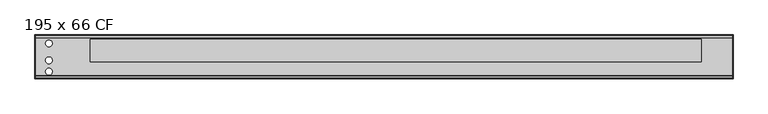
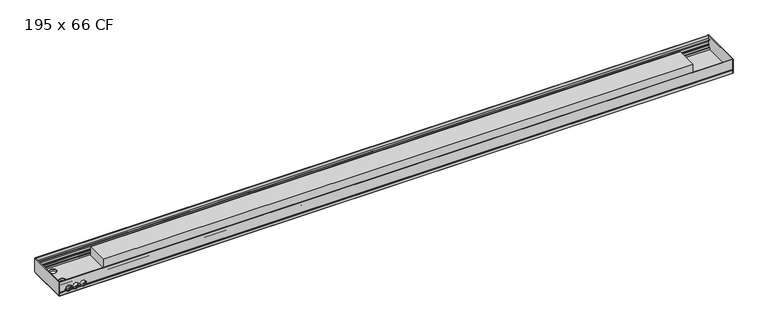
"""IFC4 building model written with IfcOpenShell, lengths in millimetres: proxy geometry, Mohlenhof_Внутрипольный конвектор_QSKM CF : 195 x 66 CF."""

from ifc_helpers import new_model, si_unit, point, frame, frame_2d, origin, place, context, project, spatial, polyline, circle_curve, ellipse_curve, trimmed, segment, composite_curve, outline, extrude, source, transform, mapped, element, save
from ifc_brep_helpers import plane_surface, revolved_surface, advanced_brep


def proxy_195_x_66_cf_4e1b1b7e(model_context):
    return source(origin(), model_context, "Body", "SolidModel", [
        advanced_brep(
        [(1548.0, -295.0, -48.5473602), (1548.0, -293.5, -49.2468216), (1548.0, -292.5, -49.2468216), (1548.0, -292.5, -46.0008038), (1548.0, -290.0, -46.0008038), (1548.0, -290.0, -56.5008038), (1548.0, -292.5, -56.5008038), (1548.0, -292.5, -53.2468216), (1548.0, -293.5, -53.2468216), (1548.0, -295.0, -53.9462831), (1548.0, -295.0, -66.5), (1548.0, -291.0, -66.5), (1548.0, -291.0, -65.2), (1548.0, -293.0, -65.2), (1548.0, -293.0, -62.5), (1548.0, -282.0, -62.5), (1548.0, -282.0, -54.9172677), (1548.0, -283.4172677, -53.5), (1548.0, -287.0, -53.5), (1548.0, -287.0, -45.91), (1548.0, -289.0, -43.91), (1548.0, -289.0, -39.5), (1548.0, -290.0, -39.5), (1548.0, -290.0, -43.5), (1548.0, -292.4956439, -43.5), (1548.0, -292.4956439, -23.0), (1548.0, -290.0, -23.0), (1548.0, -290.0, -27.0), (1548.0, -289.0, -27.0), (1548.0, -289.0, -17.0), (1548.0, -283.3956439, -17.0), (1548.0, -283.3956439, -15.0), (1548.0, -293.4, -15.0), (1548.0, -293.4, 0.0), (1548.0, -295.0, 0.0), (-1548.0, -295.0, -48.5473602), (-1548.0, -295.0, 0.0), (-1548.0, -293.4, 0.0), (-1548.0, -293.4, -15.0), (-1548.0, -283.3956439, -15.0), (-1548.0, -283.3956439, -17.0), (-1548.0, -289.0, -17.0), (-1548.0, -289.0, -27.0), (-1548.0, -290.0, -27.0), (-1548.0, -290.0, -23.0), (-1548.0, -292.4956439, -23.0), (-1548.0, -292.4956439, -43.5), (-1548.0, -290.0, -43.5), (-1548.0, -290.0, -39.5), (-1548.0, -289.0, -39.5), (-1548.0, -289.0, -43.91), (-1548.0, -287.0, -45.91), (-1548.0, -287.0, -53.5), (-1548.0, -283.4172677, -53.5), (-1548.0, -282.0, -54.9172677), (-1548.0, -282.0, -62.5), (-1548.0, -293.0, -62.5), (-1548.0, -293.0, -65.2), (-1548.0, -291.0, -65.2), (-1548.0, -291.0, -66.5), (-1548.0, -295.0, -66.5), (-1548.0, -295.0, -53.9462831), (-1548.0, -293.5, -53.2468216), (-1548.0, -292.5, -53.2468216), (-1548.0, -292.5, -56.5008038), (-1548.0, -290.0, -56.5008038), (-1548.0, -290.0, -46.0008038), (-1548.0, -292.5, -46.0008038), (-1548.0, -292.5, -49.2468216), (-1548.0, -293.5, -49.2468216), (-1428.7585985, -295.0, -48.5473602), (-1429.155283, -293.5, -49.2468216), (-1520.844717, -293.5, -49.2468216), (-1521.2414015, -295.0, -48.5473602), (-1488.2414015, -295.0, -48.5473602), (-1494.7585985, -295.0, -48.5473602), (-1495.155283, -293.5, -49.2468216), (-1487.844717, -293.5, -49.2468216), (-1455.2414015, -295.0, -48.5473602), (-1461.7585985, -295.0, -48.5473602), (-1462.155283, -293.5, -49.2468216), (-1454.844717, -293.5, -49.2468216), (-1429.155283, -292.5, -49.2468216), (-1520.844717, -292.5, -49.2468216), (-1495.155283, -292.5, -49.2468216), (-1487.844717, -292.5, -49.2468216), (-1462.155283, -292.5, -49.2468216), (-1454.844717, -292.5, -49.2468216), (-1427.6911648, -292.5, -46.0008038), (-1522.3088352, -292.5, -46.0008038), (-1493.6911648, -292.5, -46.0008038), (-1489.3088352, -292.5, -46.0008038), (-1460.6911648, -292.5, -46.0008038), (-1456.3088352, -292.5, -46.0008038), (-1427.6911648, -290.0, -46.0008038), (-1522.3088352, -290.0, -46.0008038), (-1493.6911648, -290.0, -46.0008038), (-1489.3088352, -290.0, -46.0008038), (-1460.6911648, -290.0, -46.0008038), (-1456.3088352, -290.0, -46.0008038), (-1517.328032, -292.5, -53.2468216), (-1498.671968, -292.5, -53.2468216), (-1484.328032, -292.5, -53.2468216), (-1465.671968, -292.5, -53.2468216), (-1451.328032, -292.5, -53.2468216), (-1432.671968, -292.5, -53.2468216), (-1432.671968, -293.5, -53.2468216), (-1517.328032, -293.5, -53.2468216), (-1498.671968, -293.5, -53.2468216), (-1484.328032, -293.5, -53.2468216), (-1465.671968, -293.5, -53.2468216), (-1451.328032, -293.5, -53.2468216), (-1433.6280208, -295.0, -53.9462831), (-1516.3719792, -295.0, -53.9462831), (-1499.6280208, -295.0, -53.9462831), (-1483.3719792, -295.0, -53.9462831), (-1466.6280208, -295.0, -53.9462831), (-1450.3719792, -295.0, -53.9462831), (-1514.7064841, -282.0, -54.9172677), (-1501.2935159, -282.0, -54.9172677), (-1481.7064841, -282.0, -54.9172677), (-1468.2935159, -282.0, -54.9172677), (-1448.7064841, -282.0, -54.9172677), (-1435.2935159, -282.0, -54.9172677), (-1433.0, -283.4172677, -53.5), (-1517.0, -283.4172677, -53.5), (-1499.0, -283.4172677, -53.5), (-1484.0, -283.4172677, -53.5), (-1466.0, -283.4172677, -53.5), (-1451.0, -283.4172677, -53.5), (-1433.0, -287.0, -53.5), (-1517.0, -287.0, -53.5), (-1499.0, -287.0, -53.5), (-1484.0, -287.0, -53.5), (-1466.0, -287.0, -53.5), (-1451.0, -287.0, -53.5), (-1427.6629187, -287.0, -45.91), (-1522.3370813, -287.0, -45.91), (-1493.6629187, -287.0, -45.91), (-1489.3370813, -287.0, -45.91), (-1460.6629187, -287.0, -45.91), (-1456.3370813, -287.0, -45.91), (-1427.1948691, -289.0, -43.91), (-1522.8051309, -289.0, -43.91), (-1493.1948691, -289.0, -43.91), (-1489.8051309, -289.0, -43.91), (-1460.1948691, -289.0, -43.91), (-1456.8051309, -289.0, -43.91), (-1427.0, -289.0, -41.5), (-1427.1339313, -289.0, -39.5), (-1522.8660687, -289.0, -39.5), (-1523.0, -289.0, -41.5), (-1493.0, -289.0, -41.5), (-1493.1339313, -289.0, -39.5), (-1489.8660687, -289.0, -39.5), (-1490.0, -289.0, -41.5), (-1460.0, -289.0, -41.5), (-1460.1339313, -289.0, -39.5), (-1456.8660687, -289.0, -39.5), (-1457.0, -289.0, -41.5), (-1427.1339313, -290.0, -39.5), (-1522.8660687, -290.0, -39.5), (-1493.1339313, -290.0, -39.5), (-1489.8660687, -290.0, -39.5), (-1460.1339313, -290.0, -39.5), (-1456.8660687, -290.0, -39.5), (-1427.0, -290.0, -41.5), (-1427.1339313, -290.0, -43.5), (-1522.8660687, -290.0, -43.5), (-1523.0, -290.0, -41.5), (-1493.0, -290.0, -41.5), (-1493.1339313, -290.0, -43.5), (-1489.8660687, -290.0, -43.5), (-1490.0, -290.0, -41.5), (-1460.0, -290.0, -41.5), (-1460.1339313, -290.0, -43.5), (-1456.8660687, -290.0, -43.5), (-1457.0, -290.0, -41.5), (-1427.1339313, -292.4956439, -43.5), (-1522.8660687, -292.4956439, -43.5), (-1493.1339313, -292.4956439, -43.5), (-1489.8660687, -292.4956439, -43.5), (-1460.1339313, -292.4956439, -43.5), (-1456.8660687, -292.4956439, -43.5), (-1427.0, -292.4956439, -41.5), (-1457.0, -292.4956439, -41.5), (-1460.0, -292.4956439, -41.5), (-1490.0, -292.4956439, -41.5), (-1493.0, -292.4956439, -41.5), (-1523.0, -292.4956439, -41.5), (-1511.8405729, -290.0, -27.0), (-1504.1594271, -290.0, -27.0), (-1478.8405729, -290.0, -27.0), (-1471.1594271, -290.0, -27.0), (-1445.8405729, -290.0, -27.0), (-1438.1594271, -290.0, -27.0), (-1438.1594271, -289.0, -27.0), (-1511.8405729, -289.0, -27.0), (-1504.1594271, -289.0, -27.0), (-1478.8405729, -289.0, -27.0), (-1471.1594271, -289.0, -27.0), (-1445.8405729, -289.0, -27.0), (-1523.0, -295.0, -41.5), (-1493.0, -295.0, -41.5), (-1490.0, -295.0, -41.5), (-1460.0, -295.0, -41.5), (-1457.0, -295.0, -41.5), (-1427.0, -295.0, -41.5)],
        [
            (0, 1),
            (1, 2),
            (2, 3),
            (3, 4),
            (4, 5),
            (5, 6),
            (6, 7),
            (7, 8),
            (8, 9),
            (9, 10),
            (10, 11),
            (11, 12),
            (12, 13),
            (13, 14),
            (14, 15),
            (15, 16),
            (16, 17),
            (17, 18),
            (18, 19),
            (19, 20),
            (20, 21),
            (21, 22),
            (22, 23),
            (23, 24),
            (24, 25),
            (25, 26),
            (26, 27),
            (27, 28),
            (28, 29),
            (29, 30),
            (30, 31),
            (31, 32),
            (32, 33),
            (33, 34),
            (34, 0),
            (35, 36),
            (36, 37),
            (37, 38),
            (38, 39),
            (39, 40),
            (40, 41),
            (41, 42),
            (42, 43),
            (43, 44),
            (44, 45),
            (45, 46),
            (46, 47),
            (47, 48),
            (48, 49),
            (49, 50),
            (50, 51),
            (51, 52),
            (52, 53),
            (53, 54),
            (54, 55),
            (55, 56),
            (56, 57),
            (57, 58),
            (58, 59),
            (59, 60),
            (60, 61),
            (61, 62),
            (62, 63),
            (63, 64),
            (64, 65),
            (65, 66),
            (66, 67),
            (67, 68),
            (68, 69),
            (69, 35),
            (0, 70),
            (70, 71, ellipse_curve(frame((-1442.0, -310.1131126, -41.5), z_axis=(0.0, 0.42261826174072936, 0.9063077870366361), x_axis=(0.0, -0.906307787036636, 0.4226182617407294)), 35.4930237, 15.0)),
            (71, 1),
            (69, 72),
            (72, 73, ellipse_curve(frame((-1508.0, -310.1131126, -41.5), z_axis=(0.0, 0.42261826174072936, 0.9063077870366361), x_axis=(0.0, -0.906307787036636, 0.4226182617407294)), 35.4930237, 15.0)),
            (73, 35),
            (74, 75),
            (75, 76, ellipse_curve(frame((-1508.0, -310.1131126, -41.5), z_axis=(0.0, 0.42261826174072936, 0.9063077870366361), x_axis=(0.0, -0.906307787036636, 0.4226182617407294)), 35.4930237, 15.0)),
            (76, 77),
            (77, 74, ellipse_curve(frame((-1475.0, -310.1131126, -41.5), z_axis=(0.0, 0.42261826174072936, 0.9063077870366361), x_axis=(0.0, -0.906307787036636, 0.4226182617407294)), 35.4930237, 15.0)),
            (78, 79),
            (79, 80, ellipse_curve(frame((-1475.0, -310.1131126, -41.5), z_axis=(0.0, 0.42261826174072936, 0.9063077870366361), x_axis=(0.0, -0.906307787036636, 0.4226182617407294)), 35.4930237, 15.0)),
            (80, 81),
            (81, 78, ellipse_curve(frame((-1442.0, -310.1131126, -41.5), z_axis=(0.0, 0.42261826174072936, 0.9063077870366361), x_axis=(0.0, -0.906307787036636, 0.4226182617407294)), 35.4930237, 15.0)),
            (71, 82),
            (82, 2),
            (68, 83),
            (83, 72),
            (76, 84),
            (84, 85),
            (85, 77),
            (80, 86),
            (86, 87),
            (87, 81),
            (82, 88, circle_curve(frame((-1442.0, -292.5, -41.5), z_axis=(0.0, -1.0, 0.0), x_axis=(1.0, 0.0, 0.0)), 15.0)),
            (88, 3),
            (67, 89),
            (89, 83, circle_curve(frame((-1508.0, -292.5, -41.5), z_axis=(0.0, -1.0, 0.0), x_axis=(1.0, 0.0, 0.0)), 15.0)),
            (84, 90, circle_curve(frame((-1508.0, -292.5, -41.5), z_axis=(0.0, -1.0, 0.0), x_axis=(1.0, 0.0, 0.0)), 15.0)),
            (90, 91),
            (91, 85, circle_curve(frame((-1475.0, -292.5, -41.5), z_axis=(0.0, -1.0, 0.0), x_axis=(1.0, 0.0, 0.0)), 15.0)),
            (86, 92, circle_curve(frame((-1475.0, -292.5, -41.5), z_axis=(0.0, -1.0, 0.0), x_axis=(1.0, 0.0, 0.0)), 15.0)),
            (92, 93),
            (93, 87, circle_curve(frame((-1442.0, -292.5, -41.5), z_axis=(0.0, -1.0, 0.0), x_axis=(1.0, 0.0, 0.0)), 15.0)),
            (88, 94),
            (94, 4),
            (66, 95),
            (95, 89),
            (90, 96),
            (96, 97),
            (97, 91),
            (92, 98),
            (98, 99),
            (99, 93),
            (94, 99, circle_curve(frame((-1442.0, -290.0, -41.5), z_axis=(0.0, 1.0, 0.0), x_axis=(1.0, 0.0, 0.0)), 15.0)),
            (98, 97, circle_curve(frame((-1475.0, -290.0, -41.5), z_axis=(0.0, 1.0, 0.0), x_axis=(1.0, 0.0, 0.0)), 15.0)),
            (96, 95, circle_curve(frame((-1508.0, -290.0, -41.5), z_axis=(0.0, 1.0, 0.0), x_axis=(1.0, 0.0, 0.0)), 15.0)),
            (65, 5),
            (64, 6),
            (63, 100),
            (100, 101, circle_curve(frame((-1508.0, -292.5, -41.5), z_axis=(0.0, -1.0, 0.0), x_axis=(1.0, 0.0, 0.0)), 15.0)),
            (101, 102),
            (102, 103, circle_curve(frame((-1475.0, -292.5, -41.5), z_axis=(0.0, -1.0, 0.0), x_axis=(1.0, 0.0, 0.0)), 15.0)),
            (103, 104),
            (104, 105, circle_curve(frame((-1442.0, -292.5, -41.5), z_axis=(0.0, -1.0, 0.0), x_axis=(1.0, 0.0, 0.0)), 15.0)),
            (105, 7),
            (105, 106),
            (106, 8),
            (62, 107),
            (107, 100),
            (101, 108),
            (108, 109),
            (109, 102),
            (103, 110),
            (110, 111),
            (111, 104),
            (106, 112, ellipse_curve(frame((-1442.0, -268.3088597, -41.5), z_axis=(0.0, 0.4226182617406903, -0.9063077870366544), x_axis=(0.0, -0.9063077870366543, -0.42261826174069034)), 35.4930237, 15.0)),
            (112, 9),
            (61, 113),
            (113, 107, ellipse_curve(frame((-1508.0, -268.3088597, -41.5), z_axis=(0.0, 0.4226182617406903, -0.9063077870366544), x_axis=(0.0, -0.9063077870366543, -0.42261826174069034)), 35.4930237, 15.0)),
            (108, 114, ellipse_curve(frame((-1508.0, -268.3088597, -41.5), z_axis=(0.0, 0.4226182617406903, -0.9063077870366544), x_axis=(0.0, -0.9063077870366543, -0.42261826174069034)), 35.4930237, 15.0)),
            (114, 115),
            (115, 109, ellipse_curve(frame((-1475.0, -268.3088597, -41.5), z_axis=(0.0, 0.4226182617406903, -0.9063077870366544), x_axis=(0.0, -0.9063077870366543, -0.42261826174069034)), 35.4930237, 15.0)),
            (110, 116, ellipse_curve(frame((-1475.0, -268.3088597, -41.5), z_axis=(0.0, 0.4226182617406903, -0.9063077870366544), x_axis=(0.0, -0.9063077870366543, -0.42261826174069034)), 35.4930237, 15.0)),
            (116, 117),
            (117, 111, ellipse_curve(frame((-1442.0, -268.3088597, -41.5), z_axis=(0.0, 0.4226182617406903, -0.9063077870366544), x_axis=(0.0, -0.9063077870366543, -0.42261826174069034)), 35.4930237, 15.0)),
            (112, 117, circle_curve(frame((-1442.0, -295.0, -41.5), z_axis=(0.0, 1.0, 0.0), x_axis=(1.0, 0.0, 0.0)), 15.0)),
            (116, 115, circle_curve(frame((-1475.0, -295.0, -41.5), z_axis=(0.0, 1.0, 0.0), x_axis=(1.0, 0.0, 0.0)), 15.0)),
            (114, 113, circle_curve(frame((-1508.0, -295.0, -41.5), z_axis=(0.0, 1.0, 0.0), x_axis=(1.0, 0.0, 0.0)), 15.0)),
            (60, 10),
            (59, 11),
            (58, 12),
            (57, 13),
            (56, 14),
            (55, 15),
            (54, 118),
            (118, 119, circle_curve(frame((-1508.0, -282.0, -41.5), z_axis=(0.0, -1.0, 0.0), x_axis=(1.0, 0.0, 0.0)), 15.0)),
            (119, 120),
            (120, 121, circle_curve(frame((-1475.0, -282.0, -41.5), z_axis=(0.0, -1.0, 0.0), x_axis=(1.0, 0.0, 0.0)), 15.0)),
            (121, 122),
            (122, 123, circle_curve(frame((-1442.0, -282.0, -41.5), z_axis=(0.0, -1.0, 0.0), x_axis=(1.0, 0.0, 0.0)), 15.0)),
            (123, 16),
            (123, 124, ellipse_curve(frame((-1442.0, -295.4172677, -41.5), z_axis=(0.0, -0.7071067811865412, -0.7071067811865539), x_axis=(0.0, -0.7071067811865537, 0.7071067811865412)), 21.2132034, 15.0)),
            (124, 17),
            (53, 125),
            (125, 118, ellipse_curve(frame((-1508.0, -295.4172677, -41.5), z_axis=(0.0, -0.7071067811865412, -0.7071067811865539), x_axis=(0.0, -0.7071067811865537, 0.7071067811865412)), 21.2132034, 15.0)),
            (119, 126, ellipse_curve(frame((-1508.0, -295.4172677, -41.5), z_axis=(0.0, -0.7071067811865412, -0.7071067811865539), x_axis=(0.0, -0.7071067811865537, 0.7071067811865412)), 21.2132034, 15.0)),
            (126, 127),
            (127, 120, ellipse_curve(frame((-1475.0, -295.4172677, -41.5), z_axis=(0.0, -0.7071067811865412, -0.7071067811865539), x_axis=(0.0, -0.7071067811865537, 0.7071067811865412)), 21.2132034, 15.0)),
            (121, 128, ellipse_curve(frame((-1475.0, -295.4172677, -41.5), z_axis=(0.0, -0.7071067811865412, -0.7071067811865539), x_axis=(0.0, -0.7071067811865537, 0.7071067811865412)), 21.2132034, 15.0)),
            (128, 129),
            (129, 122, ellipse_curve(frame((-1442.0, -295.4172677, -41.5), z_axis=(0.0, -0.7071067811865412, -0.7071067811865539), x_axis=(0.0, -0.7071067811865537, 0.7071067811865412)), 21.2132034, 15.0)),
            (124, 130),
            (130, 18),
            (52, 131),
            (131, 125),
            (126, 132),
            (132, 133),
            (133, 127),
            (128, 134),
            (134, 135),
            (135, 129),
            (130, 136, circle_curve(frame((-1442.0, -287.0, -41.5), z_axis=(0.0, -1.0, 0.0), x_axis=(1.0, 0.0, 0.0)), 15.0)),
            (136, 19),
            (51, 137),
            (137, 131, circle_curve(frame((-1508.0, -287.0, -41.5), z_axis=(0.0, -1.0, 0.0), x_axis=(1.0, 0.0, 0.0)), 15.0)),
            (132, 138, circle_curve(frame((-1508.0, -287.0, -41.5), z_axis=(0.0, -1.0, 0.0), x_axis=(1.0, 0.0, 0.0)), 15.0)),
            (138, 139),
            (139, 133, circle_curve(frame((-1475.0, -287.0, -41.5), z_axis=(0.0, -1.0, 0.0), x_axis=(1.0, 0.0, 0.0)), 15.0)),
            (134, 140, circle_curve(frame((-1475.0, -287.0, -41.5), z_axis=(0.0, -1.0, 0.0), x_axis=(1.0, 0.0, 0.0)), 15.0)),
            (140, 141),
            (141, 135, circle_curve(frame((-1442.0, -287.0, -41.5), z_axis=(0.0, -1.0, 0.0), x_axis=(1.0, 0.0, 0.0)), 15.0)),
            (136, 142, ellipse_curve(frame((-1442.0, -291.41, -41.5), z_axis=(0.0, -0.7071067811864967, -0.7071067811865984), x_axis=(0.0, -0.7071067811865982, 0.7071067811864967)), 21.2132034, 15.0)),
            (142, 20),
            (50, 143),
            (143, 137, ellipse_curve(frame((-1508.0, -291.41, -41.5), z_axis=(0.0, -0.7071067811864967, -0.7071067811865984), x_axis=(0.0, -0.7071067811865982, 0.7071067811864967)), 21.2132034, 15.0)),
            (138, 144, ellipse_curve(frame((-1508.0, -291.41, -41.5), z_axis=(0.0, -0.7071067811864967, -0.7071067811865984), x_axis=(0.0, -0.7071067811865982, 0.7071067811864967)), 21.2132034, 15.0)),
            (144, 145),
            (145, 139, ellipse_curve(frame((-1475.0, -291.41, -41.5), z_axis=(0.0, -0.7071067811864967, -0.7071067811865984), x_axis=(0.0, -0.7071067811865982, 0.7071067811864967)), 21.2132034, 15.0)),
            (140, 146, ellipse_curve(frame((-1475.0, -291.41, -41.5), z_axis=(0.0, -0.7071067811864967, -0.7071067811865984), x_axis=(0.0, -0.7071067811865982, 0.7071067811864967)), 21.2132034, 15.0)),
            (146, 147),
            (147, 141, ellipse_curve(frame((-1442.0, -291.41, -41.5), z_axis=(0.0, -0.7071067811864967, -0.7071067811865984), x_axis=(0.0, -0.7071067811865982, 0.7071067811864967)), 21.2132034, 15.0)),
            (142, 148, circle_curve(frame((-1442.0, -289.0, -41.5), z_axis=(0.0, -1.0, 0.0), x_axis=(1.0, 0.0, 0.0)), 15.0)),
            (148, 149, circle_curve(frame((-1442.0, -289.0, -41.5), z_axis=(0.0, -1.0, 0.0), x_axis=(1.0, 0.0, 0.0)), 15.0)),
            (149, 21),
            (49, 150),
            (150, 151, circle_curve(frame((-1508.0, -289.0, -41.5), z_axis=(0.0, -1.0, 0.0), x_axis=(1.0, 0.0, 0.0)), 15.0)),
            (151, 143, circle_curve(frame((-1508.0, -289.0, -41.5), z_axis=(0.0, -1.0, 0.0), x_axis=(1.0, 0.0, 0.0)), 15.0)),
            (144, 152, circle_curve(frame((-1508.0, -289.0, -41.5), z_axis=(0.0, -1.0, 0.0), x_axis=(1.0, 0.0, 0.0)), 15.0)),
            (152, 153, circle_curve(frame((-1508.0, -289.0, -41.5), z_axis=(0.0, -1.0, 0.0), x_axis=(1.0, 0.0, 0.0)), 15.0)),
            (153, 154),
            (154, 155, circle_curve(frame((-1475.0, -289.0, -41.5), z_axis=(0.0, -1.0, 0.0), x_axis=(1.0, 0.0, 0.0)), 15.0)),
            (155, 145, circle_curve(frame((-1475.0, -289.0, -41.5), z_axis=(0.0, -1.0, 0.0), x_axis=(1.0, 0.0, 0.0)), 15.0)),
            (146, 156, circle_curve(frame((-1475.0, -289.0, -41.5), z_axis=(0.0, -1.0, 0.0), x_axis=(1.0, 0.0, 0.0)), 15.0)),
            (156, 157, circle_curve(frame((-1475.0, -289.0, -41.5), z_axis=(0.0, -1.0, 0.0), x_axis=(1.0, 0.0, 0.0)), 15.0)),
            (157, 158),
            (158, 159, circle_curve(frame((-1442.0, -289.0, -41.5), z_axis=(0.0, -1.0, 0.0), x_axis=(1.0, 0.0, 0.0)), 15.0)),
            (159, 147, circle_curve(frame((-1442.0, -289.0, -41.5), z_axis=(0.0, -1.0, 0.0), x_axis=(1.0, 0.0, 0.0)), 15.0)),
            (149, 160),
            (160, 22),
            (48, 161),
            (161, 150),
            (153, 162),
            (162, 163),
            (163, 154),
            (157, 164),
            (164, 165),
            (165, 158),
            (160, 166, circle_curve(frame((-1442.0, -290.0, -41.5), z_axis=(0.0, 1.0, 0.0), x_axis=(1.0, 0.0, 0.0)), 15.0)),
            (166, 167, circle_curve(frame((-1442.0, -290.0, -41.5), z_axis=(0.0, 1.0, 0.0), x_axis=(1.0, 0.0, 0.0)), 15.0)),
            (167, 23),
            (47, 168),
            (168, 169, circle_curve(frame((-1508.0, -290.0, -41.5), z_axis=(0.0, 1.0, 0.0), x_axis=(1.0, 0.0, 0.0)), 15.0)),
            (169, 161, circle_curve(frame((-1508.0, -290.0, -41.5), z_axis=(0.0, 1.0, 0.0), x_axis=(1.0, 0.0, 0.0)), 15.0)),
            (162, 170, circle_curve(frame((-1508.0, -290.0, -41.5), z_axis=(0.0, 1.0, 0.0), x_axis=(1.0, 0.0, 0.0)), 15.0)),
            (170, 171, circle_curve(frame((-1508.0, -290.0, -41.5), z_axis=(0.0, 1.0, 0.0), x_axis=(1.0, 0.0, 0.0)), 15.0)),
            (171, 172),
            (172, 173, circle_curve(frame((-1475.0, -290.0, -41.5), z_axis=(0.0, 1.0, 0.0), x_axis=(1.0, 0.0, 0.0)), 15.0)),
            (173, 163, circle_curve(frame((-1475.0, -290.0, -41.5), z_axis=(0.0, 1.0, 0.0), x_axis=(1.0, 0.0, 0.0)), 15.0)),
            (164, 174, circle_curve(frame((-1475.0, -290.0, -41.5), z_axis=(0.0, 1.0, 0.0), x_axis=(1.0, 0.0, 0.0)), 15.0)),
            (174, 175, circle_curve(frame((-1475.0, -290.0, -41.5), z_axis=(0.0, 1.0, 0.0), x_axis=(1.0, 0.0, 0.0)), 15.0)),
            (175, 176),
            (176, 177, circle_curve(frame((-1442.0, -290.0, -41.5), z_axis=(0.0, 1.0, 0.0), x_axis=(1.0, 0.0, 0.0)), 15.0)),
            (177, 165, circle_curve(frame((-1442.0, -290.0, -41.5), z_axis=(0.0, 1.0, 0.0), x_axis=(1.0, 0.0, 0.0)), 15.0)),
            (167, 178),
            (178, 24),
            (46, 179),
            (179, 168),
            (171, 180),
            (180, 181),
            (181, 172),
            (175, 182),
            (182, 183),
            (183, 176),
            (178, 184, circle_curve(frame((-1442.0, -292.4956439, -41.5), z_axis=(0.0, -1.0, 0.0), x_axis=(1.0, 0.0, 0.0)), 15.0)),
            (184, 185, circle_curve(frame((-1442.0, -292.4956439, -41.5), z_axis=(0.0, -1.0, 0.0), x_axis=(1.0, 0.0, 0.0)), 15.0)),
            (185, 183, circle_curve(frame((-1442.0, -292.4956439, -41.5), z_axis=(0.0, -1.0, 0.0), x_axis=(1.0, 0.0, 0.0)), 15.0)),
            (182, 186, circle_curve(frame((-1475.0, -292.4956439, -41.5), z_axis=(0.0, -1.0, 0.0), x_axis=(1.0, 0.0, 0.0)), 15.0)),
            (186, 187, circle_curve(frame((-1475.0, -292.4956439, -41.5), z_axis=(0.0, -1.0, 0.0), x_axis=(1.0, 0.0, 0.0)), 15.0)),
            (187, 181, circle_curve(frame((-1475.0, -292.4956439, -41.5), z_axis=(0.0, -1.0, 0.0), x_axis=(1.0, 0.0, 0.0)), 15.0)),
            (180, 188, circle_curve(frame((-1508.0, -292.4956439, -41.5), z_axis=(0.0, -1.0, 0.0), x_axis=(1.0, 0.0, 0.0)), 15.0)),
            (188, 189, circle_curve(frame((-1508.0, -292.4956439, -41.5), z_axis=(0.0, -1.0, 0.0), x_axis=(1.0, 0.0, 0.0)), 15.0)),
            (189, 179, circle_curve(frame((-1508.0, -292.4956439, -41.5), z_axis=(0.0, -1.0, 0.0), x_axis=(1.0, 0.0, 0.0)), 15.0)),
            (45, 25),
            (44, 26),
            (43, 190),
            (190, 191, circle_curve(frame((-1508.0, -290.0, -41.5), z_axis=(0.0, 1.0, 0.0), x_axis=(1.0, 0.0, 0.0)), 15.0)),
            (191, 192),
            (192, 193, circle_curve(frame((-1475.0, -290.0, -41.5), z_axis=(0.0, 1.0, 0.0), x_axis=(1.0, 0.0, 0.0)), 15.0)),
            (193, 194),
            (194, 195, circle_curve(frame((-1442.0, -290.0, -41.5), z_axis=(0.0, 1.0, 0.0), x_axis=(1.0, 0.0, 0.0)), 15.0)),
            (195, 27),
            (195, 196),
            (196, 28),
            (42, 197),
            (197, 190),
            (191, 198),
            (198, 199),
            (199, 192),
            (193, 200),
            (200, 201),
            (201, 194),
            (196, 201, circle_curve(frame((-1442.0, -289.0, -41.5), z_axis=(0.0, -1.0, 0.0), x_axis=(1.0, 0.0, 0.0)), 15.0)),
            (200, 199, circle_curve(frame((-1475.0, -289.0, -41.5), z_axis=(0.0, -1.0, 0.0), x_axis=(1.0, 0.0, 0.0)), 15.0)),
            (198, 197, circle_curve(frame((-1508.0, -289.0, -41.5), z_axis=(0.0, -1.0, 0.0), x_axis=(1.0, 0.0, 0.0)), 15.0)),
            (41, 29),
            (40, 30),
            (39, 31),
            (38, 32),
            (37, 33),
            (36, 34),
            (73, 202, circle_curve(frame((-1508.0, -295.0, -41.5), z_axis=(0.0, 1.0, 0.0), x_axis=(1.0, 0.0, 0.0)), 15.0)),
            (202, 203, circle_curve(frame((-1508.0, -295.0, -41.5), z_axis=(0.0, 1.0, 0.0), x_axis=(1.0, 0.0, 0.0)), 15.0)),
            (203, 75, circle_curve(frame((-1508.0, -295.0, -41.5), z_axis=(0.0, 1.0, 0.0), x_axis=(1.0, 0.0, 0.0)), 15.0)),
            (74, 204, circle_curve(frame((-1475.0, -295.0, -41.5), z_axis=(0.0, 1.0, 0.0), x_axis=(1.0, 0.0, 0.0)), 15.0)),
            (204, 205, circle_curve(frame((-1475.0, -295.0, -41.5), z_axis=(0.0, 1.0, 0.0), x_axis=(1.0, 0.0, 0.0)), 15.0)),
            (205, 79, circle_curve(frame((-1475.0, -295.0, -41.5), z_axis=(0.0, 1.0, 0.0), x_axis=(1.0, 0.0, 0.0)), 15.0)),
            (78, 206, circle_curve(frame((-1442.0, -295.0, -41.5), z_axis=(0.0, 1.0, 0.0), x_axis=(1.0, 0.0, 0.0)), 15.0)),
            (206, 207, circle_curve(frame((-1442.0, -295.0, -41.5), z_axis=(0.0, 1.0, 0.0), x_axis=(1.0, 0.0, 0.0)), 15.0)),
            (207, 70, circle_curve(frame((-1442.0, -295.0, -41.5), z_axis=(0.0, 1.0, 0.0), x_axis=(1.0, 0.0, 0.0)), 15.0)),
            (151, 169),
            (189, 202),
            (203, 188),
            (170, 152),
            (155, 173),
            (187, 204),
            (205, 186),
            (174, 156),
            (159, 177),
            (185, 206),
            (207, 184),
            (166, 148),
        ],
        [
            plane_surface(frame((1548.0, -293.0, -62.5), z_axis=(1.0, 0.0, 0.0), x_axis=(0.0, 0.0, 1.0))),
            plane_surface(frame((-1548.0, -293.0, -62.5), z_axis=(-1.0, 0.0, 0.0), x_axis=(0.0, 0.0, 1.0))),
            plane_surface(frame((1548.0, -295.0, -48.5473602), z_axis=(0.0, -0.42261826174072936, -0.9063077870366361), x_axis=(-1.0, 0.0, 0.0))),
            plane_surface(frame((1548.0, -293.5, -49.2468216), z_axis=(0.0, 0.0, -1.0), x_axis=(-1.0, 0.0, 0.0))),
            plane_surface(frame((1548.0, -292.5, -49.2468216), z_axis=(0.0, 1.0, 0.0), x_axis=(-1.0, 0.0, 0.0))),
            plane_surface(frame((1548.0, -292.5, -46.0008038), z_axis=(0.0, 0.0, -1.0), x_axis=(-1.0, 0.0, 0.0))),
            plane_surface(frame((1548.0, -290.0, -46.0008038), z_axis=(0.0, -1.0, 0.0), x_axis=(-1.0, 0.0, 0.0))),
            plane_surface(frame((1548.0, -290.0, -56.5008038), z_axis=(0.0, 0.0, 1.0), x_axis=(-1.0, 0.0, 0.0))),
            plane_surface(frame((1548.0, -292.5, -56.5008038), z_axis=(0.0, 1.0, 0.0), x_axis=(-1.0, 0.0, 0.0))),
            plane_surface(frame((1548.0, -292.5, -53.2468216), z_axis=(0.0, 0.0, 1.0), x_axis=(-1.0, 0.0, 0.0))),
            plane_surface(frame((1548.0, -293.5, -53.2468216), z_axis=(0.0, -0.4226182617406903, 0.9063077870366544), x_axis=(-1.0, 0.0, 0.0))),
            plane_surface(frame((1548.0, -295.0, -53.9462831), z_axis=(0.0, -1.0, 0.0), x_axis=(-1.0, 0.0, 0.0))),
            plane_surface(frame((1548.0, -295.0, -66.5), z_axis=(0.0, 0.0, -1.0), x_axis=(-1.0, 0.0, 0.0))),
            plane_surface(frame((1548.0, -291.0, -66.5), z_axis=(0.0, 1.0, 0.0), x_axis=(-1.0, 0.0, 0.0))),
            plane_surface(frame((1548.0, -291.0, -65.2), z_axis=(0.0, 0.0, 1.0), x_axis=(-1.0, 0.0, 0.0))),
            plane_surface(frame((1548.0, -293.0, -65.2), z_axis=(0.0, 1.0, 0.0), x_axis=(-1.0, 0.0, 0.0))),
            plane_surface(frame((1548.0, -293.0, -62.5), z_axis=(0.0, 0.0, -1.0), x_axis=(-1.0, 0.0, 0.0))),
            plane_surface(frame((1548.0, -282.0, -62.5), z_axis=(0.0, 1.0, 0.0), x_axis=(-1.0, 0.0, 0.0))),
            plane_surface(frame((1548.0, -282.0, -54.9172677), z_axis=(0.0, 0.7071067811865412, 0.7071067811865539), x_axis=(-1.0, 0.0, 0.0))),
            plane_surface(frame((1548.0, -283.4172677, -53.5), z_axis=(0.0, 0.0, 1.0), x_axis=(-1.0, 0.0, 0.0))),
            plane_surface(frame((1548.0, -287.0, -53.5), z_axis=(0.0, 1.0, 0.0), x_axis=(-1.0, 0.0, 0.0))),
            plane_surface(frame((1548.0, -287.0, -45.91), z_axis=(0.0, 0.7071067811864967, 0.7071067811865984), x_axis=(-1.0, 0.0, 0.0))),
            plane_surface(frame((1548.0, -289.0, -43.91), z_axis=(0.0, 1.0, 0.0), x_axis=(-1.0, 0.0, 0.0))),
            plane_surface(frame((1548.0, -289.0, -39.5), z_axis=(0.0, 0.0, 1.0), x_axis=(-1.0, 0.0, 0.0))),
            plane_surface(frame((1548.0, -290.0, -39.5), z_axis=(0.0, -1.0, 0.0), x_axis=(-1.0, 0.0, 0.0))),
            plane_surface(frame((1548.0, -290.0, -43.5), z_axis=(0.0, 0.0, 1.0), x_axis=(-1.0, 0.0, 0.0))),
            plane_surface(frame((1548.0, -292.4956439, -43.5), z_axis=(0.0, 1.0, 0.0), x_axis=(-1.0, 0.0, 0.0))),
            plane_surface(frame((1548.0, -292.4956439, -23.0), z_axis=(0.0, 0.0, -1.0), x_axis=(-1.0, 0.0, 0.0))),
            plane_surface(frame((1548.0, -290.0, -23.0), z_axis=(0.0, -1.0, 0.0), x_axis=(-1.0, 0.0, 0.0))),
            plane_surface(frame((1548.0, -290.0, -27.0), z_axis=(0.0, 0.0, -1.0), x_axis=(-1.0, 0.0, 0.0))),
            plane_surface(frame((1548.0, -289.0, -27.0), z_axis=(0.0, 1.0, 0.0), x_axis=(-1.0, 0.0, 0.0))),
            plane_surface(frame((1548.0, -289.0, -17.0), z_axis=(0.0, 0.0, -1.0), x_axis=(-1.0, 0.0, 0.0))),
            plane_surface(frame((1548.0, -283.3956439, -17.0), z_axis=(0.0, 1.0, 0.0), x_axis=(-1.0, 0.0, 0.0))),
            plane_surface(frame((1548.0, -283.3956439, -15.0), z_axis=(0.0, 0.0, 1.0), x_axis=(-1.0, 0.0, 0.0))),
            plane_surface(frame((1548.0, -293.4, -15.0), z_axis=(0.0, 1.0, 0.0), x_axis=(-1.0, 0.0, 0.0))),
            plane_surface(frame((1548.0, -293.4, 0.0), z_axis=(0.0, 0.0, 1.0), x_axis=(-1.0, 0.0, 0.0))),
            plane_surface(frame((1548.0, -295.0, 0.0), z_axis=(0.0, -1.0, 0.0), x_axis=(-1.0, 0.0, 0.0))),
            revolved_surface(polyline([(-1493.0, -300.47646346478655, -41.5), (-1493.0, -236.1412559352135, -41.5)]), (-1508.0, -263.0, -41.5), (0.0, -1.0, 0.0)),
            revolved_surface(polyline([(-1493.0, -342.2807163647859, -41.5), (-1493.0, -276.41000002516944, -41.5)]), (-1508.0, -263.0, -41.5), (0.0, -1.0, 0.0)),
            revolved_surface(polyline([(-1493.0, -290.0, -41.5), (-1493.0, -289.0, -41.5)]), (-1508.0, -263.0, -41.5), (0.0, -1.0, 0.0)),
            revolved_surface(polyline([(-1493.0, -295.0, -41.5), (-1493.0, -292.4956439, -41.5)]), (-1508.0, -263.0, -41.5), (0.0, -1.0, 0.0)),
            revolved_surface(polyline([(-1460.0, -300.47646346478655, -41.5), (-1460.0, -236.1412559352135, -41.5)]), (-1475.0, 0.0, -41.5), (0.0, -1.0, 0.0)),
            revolved_surface(polyline([(-1460.0, -342.2807163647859, -41.5), (-1460.0, -276.41000002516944, -41.5)]), (-1475.0, 0.0, -41.5), (0.0, -1.0, 0.0)),
            revolved_surface(polyline([(-1460.0, -290.0, -41.5), (-1460.0, -289.0, -41.5)]), (-1475.0, 0.0, -41.5), (0.0, -1.0, 0.0)),
            revolved_surface(polyline([(-1460.0, -295.0, -41.5), (-1460.0, -292.4956439, -41.5)]), (-1475.0, 0.0, -41.5), (0.0, -1.0, 0.0)),
            revolved_surface(polyline([(-1427.0, -300.47646346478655, -41.5), (-1427.0, -236.1412559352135, -41.5)]), (-1442.0, 0.0, -41.5), (0.0, -1.0, 0.0)),
            revolved_surface(polyline([(-1427.0, -342.2807163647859, -41.5), (-1427.0, -276.41000002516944, -41.5)]), (-1442.0, 0.0, -41.5), (0.0, -1.0, 0.0)),
            revolved_surface(polyline([(-1427.0, -290.0, -41.5), (-1427.0, -289.0, -41.5)]), (-1442.0, 0.0, -41.5), (0.0, -1.0, 0.0)),
            revolved_surface(polyline([(-1427.0, -295.0, -41.5), (-1427.0, -292.4956439, -41.5)]), (-1442.0, 0.0, -41.5), (0.0, -1.0, 0.0)),
        ],
        [
            (0, [[1, 2, 3, 4, 5, 6, 7, 8, 9, 10, 11, 12, 13, 14, 15, 16, 17, 18, 19, 20, 21, 22, 23, 24, 25, 26, 27, 28, 29, 30, 31, 32, 33, 34, 35]]),
            (1, [[36, 37, 38, 39, 40, 41, 42, 43, 44, 45, 46, 47, 48, 49, 50, 51, 52, 53, 54, 55, 56, 57, 58, 59, 60, 61, 62, 63, 64, 65, 66, 67, 68, 69, 70]]),
            (2, [[-1, 71, 72, 73]]),
            (2, [[-70, 74, 75, 76]]),
            (2, [[77, 78, 79, 80]]),
            (2, [[81, 82, 83, 84]]),
            (3, [[-2, -73, 85, 86]]),
            (3, [[-69, 87, 88, -74]]),
            (3, [[-79, 89, 90, 91]]),
            (3, [[-83, 92, 93, 94]]),
            (4, [[-3, -86, 95, 96]]),
            (4, [[-68, 97, 98, -87]]),
            (4, [[-90, 99, 100, 101]]),
            (4, [[-93, 102, 103, 104]]),
            (5, [[-4, -96, 105, 106]]),
            (5, [[-67, 107, 108, -97]]),
            (5, [[-100, 109, 110, 111]]),
            (5, [[-103, 112, 113, 114]]),
            (6, [[-5, -106, 115, -113, 116, -110, 117, -107, -66, 118]]),
            (7, [[-6, -118, -65, 119]]),
            (8, [[-7, -119, -64, 120, 121, 122, 123, 124, 125, 126]]),
            (9, [[-8, -126, 127, 128]]),
            (9, [[-63, 129, 130, -120]]),
            (9, [[-122, 131, 132, 133]]),
            (9, [[-124, 134, 135, 136]]),
            (10, [[-9, -128, 137, 138]]),
            (10, [[-62, 139, 140, -129]]),
            (10, [[-132, 141, 142, 143]]),
            (10, [[-135, 144, 145, 146]]),
            (11, [[-10, -138, 147, -145, 148, -142, 149, -139, -61, 150]]),
            (12, [[-11, -150, -60, 151]]),
            (13, [[-12, -151, -59, 152]]),
            (14, [[-13, -152, -58, 153]]),
            (15, [[-14, -153, -57, 154]]),
            (16, [[-15, -154, -56, 155]]),
            (17, [[-16, -155, -55, 156, 157, 158, 159, 160, 161, 162]]),
            (18, [[-17, -162, 163, 164]]),
            (18, [[-54, 165, 166, -156]]),
            (18, [[-158, 167, 168, 169]]),
            (18, [[-160, 170, 171, 172]]),
            (19, [[-18, -164, 173, 174]]),
            (19, [[-53, 175, 176, -165]]),
            (19, [[-168, 177, 178, 179]]),
            (19, [[-171, 180, 181, 182]]),
            (20, [[-19, -174, 183, 184]]),
            (20, [[-52, 185, 186, -175]]),
            (20, [[-178, 187, 188, 189]]),
            (20, [[-181, 190, 191, 192]]),
            (21, [[-20, -184, 193, 194]]),
            (21, [[-51, 195, 196, -185]]),
            (21, [[-188, 197, 198, 199]]),
            (21, [[-191, 200, 201, 202]]),
            (22, [[-21, -194, 203, 204, 205]]),
            (22, [[-50, 206, 207, 208, -195]]),
            (22, [[-198, 209, 210, 211, 212, 213]]),
            (22, [[-201, 214, 215, 216, 217, 218]]),
            (23, [[-22, -205, 219, 220]]),
            (23, [[-49, 221, 222, -206]]),
            (23, [[-211, 223, 224, 225]]),
            (23, [[-216, 226, 227, 228]]),
            (24, [[-23, -220, 229, 230, 231]]),
            (24, [[-48, 232, 233, 234, -221]]),
            (24, [[-224, 235, 236, 237, 238, 239]]),
            (24, [[-227, 240, 241, 242, 243, 244]]),
            (25, [[-24, -231, 245, 246]]),
            (25, [[-47, 247, 248, -232]]),
            (25, [[-237, 249, 250, 251]]),
            (25, [[-242, 252, 253, 254]]),
            (26, [[-25, -246, 255, 256, 257, -253, 258, 259, 260, -250, 261, 262, 263, -247, -46, 264]]),
            (27, [[-26, -264, -45, 265]]),
            (28, [[-27, -265, -44, 266, 267, 268, 269, 270, 271, 272]]),
            (29, [[-28, -272, 273, 274]]),
            (29, [[-43, 275, 276, -266]]),
            (29, [[-268, 277, 278, 279]]),
            (29, [[-270, 280, 281, 282]]),
            (30, [[-29, -274, 283, -281, 284, -278, 285, -275, -42, 286]]),
            (31, [[-30, -286, -41, 287]]),
            (32, [[-31, -287, -40, 288]]),
            (33, [[-32, -288, -39, 289]]),
            (34, [[-33, -289, -38, 290]]),
            (35, [[-34, -290, -37, 291]]),
            (36, [[-35, -291, -36, -76, 292, 293, 294, -77, 295, 296, 297, -81, 298, 299, 300, -71]]),
            (37, [[-121, -130, -140, -149, -141, -131]]),
            (38, [[301, -233, -248, -263, 302, -292, -75, -88, -98, -108, -117, -109, -99, -89, -78, -294, 303, -261, -249, -236, 304, -209, -197, -187, -177, -167, -157, -166, -176, -186, -196, -208]]),
            (39, [[-267, -276, -285, -277]]),
            (39, [[-301, -207, -222, -234]]),
            (40, [[-302, -262, -303, -293]]),
            (39, [[-304, -235, -223, -210]]),
            (41, [[-123, -133, -143, -148, -144, -134]]),
            (42, [[305, -238, -251, -260, 306, -295, -80, -91, -101, -111, -116, -112, -102, -92, -82, -297, 307, -258, -252, -241, 308, -214, -200, -190, -180, -170, -159, -169, -179, -189, -199, -213]]),
            (43, [[-269, -279, -284, -280]]),
            (43, [[-305, -212, -225, -239]]),
            (44, [[-306, -259, -307, -296]]),
            (43, [[-308, -240, -226, -215]]),
            (45, [[-125, -136, -146, -147, -137, -127]]),
            (46, [[309, -243, -254, -257, 310, -298, -84, -94, -104, -114, -115, -105, -95, -85, -72, -300, 311, -255, -245, -230, 312, -203, -193, -183, -173, -163, -161, -172, -182, -192, -202, -218]]),
            (47, [[-271, -282, -283, -273]]),
            (47, [[-309, -217, -228, -244]]),
            (48, [[-310, -256, -311, -299]]),
            (47, [[-312, -229, -219, -204]]),
        ],
    ),
        extrude(outline(polyline([(-100.0, -48.5473602), (-101.5, -49.2468216), (-102.5, -49.2468216), (-102.5, -46.0008038), (-105.0, -46.0008038), (-105.0, -56.5008038), (-102.5, -56.5008038), (-102.5, -53.2468216), (-101.5, -53.2468216), (-100.0, -53.9462831), (-100.0, -66.5), (-104.0, -66.5), (-104.0, -65.2), (-102.0, -65.2), (-102.0, -62.5), (-113.0, -62.5), (-113.0, -54.9172677), (-111.5827323, -53.5), (-108.0, -53.5), (-108.0, -45.91), (-106.0, -43.91), (-106.0, -39.5), (-105.0, -39.5), (-105.0, -43.5), (-102.5043561, -43.5), (-102.5043561, -23.0), (-105.0, -23.0), (-105.0, -27.0), (-106.0, -27.0), (-106.0, -17.0), (-111.6043561, -17.0), (-111.6043561, -15.0), (-101.6, -15.0), (-101.6, 0.0), (-100.0, 0.0), (-100.0, -48.5473602)])), frame((-1548.0, 0.0, 0.0), z_axis=(1.0, 0.0, 0.0), x_axis=(0.0, 1.0, 0.0)), (0.0, 0.0, 1.0), 3096.0),
        extrude(outline(polyline([(1548.0, -104.499991), (1548.0, -290.5), (-1548.0, -290.5), (-1548.0, -104.499991), (1548.0, -104.499991)]), holes=[composite_curve([segment(trimmed(circle_curve(frame_2d((-1488.0, -138.0)), 15.0), [point((-1503.0, -138.0))], [point((-1473.0, -138.0))], True, "CARTESIAN"), True, "CONTINUOUS"), segment(trimmed(circle_curve(frame_2d((-1488.0, -138.0)), 15.0), [point((-1473.0, -138.0))], [point((-1503.0, -138.0))], True, "CARTESIAN"), True, "CONTINUOUS")], self_intersect=False), composite_curve([segment(trimmed(circle_curve(frame_2d((-1488.0, -213.0)), 15.0), [point((-1503.0, -213.0))], [point((-1473.0, -213.0))], True, "CARTESIAN"), True, "CONTINUOUS"), segment(trimmed(circle_curve(frame_2d((-1488.0, -213.0)), 15.0), [point((-1473.0, -213.0))], [point((-1503.0, -213.0))], True, "CARTESIAN"), True, "CONTINUOUS")], self_intersect=False), composite_curve([segment(trimmed(circle_curve(frame_2d((-1488.0, -263.0)), 15.0), [point((-1503.0, -263.0))], [point((-1473.0, -263.0))], True, "CARTESIAN"), True, "CONTINUOUS"), segment(trimmed(circle_curve(frame_2d((-1488.0, -263.0)), 15.0), [point((-1473.0, -263.0))], [point((-1503.0, -263.0))], True, "CARTESIAN"), True, "CONTINUOUS")], self_intersect=False)]), frame((0.0, 0.0, -71.5), z_axis=(0.0, 0.0, 1.0), x_axis=(1.0, 0.0, 0.0)), (0.0, 0.0, 1.0), 6.3),
        extrude(outline(polyline([(1548.0, -102.0), (1548.0, -293.0), (-1548.0, -293.0), (-1548.0, -102.0), (1548.0, -102.0)]), holes=[composite_curve([segment(trimmed(circle_curve(frame_2d((-1488.0, -138.0)), 15.0), [point((-1503.0, -138.0))], [point((-1473.0, -138.0))], True, "CARTESIAN"), True, "CONTINUOUS"), segment(trimmed(circle_curve(frame_2d((-1488.0, -138.0)), 15.0), [point((-1473.0, -138.0))], [point((-1503.0, -138.0))], True, "CARTESIAN"), True, "CONTINUOUS")], self_intersect=False), composite_curve([segment(trimmed(circle_curve(frame_2d((-1488.0, -213.0)), 15.0), [point((-1503.0, -213.0))], [point((-1473.0, -213.0))], True, "CARTESIAN"), True, "CONTINUOUS"), segment(trimmed(circle_curve(frame_2d((-1488.0, -213.0)), 15.0), [point((-1473.0, -213.0))], [point((-1503.0, -213.0))], True, "CARTESIAN"), True, "CONTINUOUS")], self_intersect=False), composite_curve([segment(trimmed(circle_curve(frame_2d((-1488.0, -263.0)), 15.0), [point((-1503.0, -263.0))], [point((-1473.0, -263.0))], True, "CARTESIAN"), True, "CONTINUOUS"), segment(trimmed(circle_curve(frame_2d((-1488.0, -263.0)), 15.0), [point((-1473.0, -263.0))], [point((-1503.0, -263.0))], True, "CARTESIAN"), True, "CONTINUOUS")], self_intersect=False)]), frame((0.0, 0.0, -65.2), z_axis=(0.0, 0.0, 1.0), x_axis=(1.0, 0.0, 0.0)), (0.0, 0.0, 1.0), 2.7),
        extrude(outline(polyline([(1408.0, -119.25), (1408.0, -219.25), (-1305.0, -219.25), (-1305.0, -119.25), (1408.0, -119.25)])), frame((0.0, 0.0, -62.5), z_axis=(0.0, 0.0, 1.0), x_axis=(1.0, 0.0, 0.0)), (0.0, 0.0, 1.0), 43.0),
        extrude(outline(polyline([(1550.0, -295.0), (1548.0, -295.0), (1548.0, -100.0), (1550.0, -100.0), (1550.0, -295.0)])), frame((0.0, 0.0, -66.5), z_axis=(0.0, 0.0, 1.0), x_axis=(1.0, 0.0, 0.0)), (0.0, 0.0, 1.0), 66.5),
        extrude(outline(polyline([(-1548.0, -100.0), (-1548.0, -295.0), (-1550.0, -295.0), (-1550.0, -100.0), (-1548.0, -100.0)])), frame((0.0, 0.0, -66.5), z_axis=(0.0, 0.0, 1.0), x_axis=(1.0, 0.0, 0.0)), (0.0, 0.0, 1.0), 66.5),
    ])


if __name__ == "__main__":
    model = new_model("IFC4")
    model_context = context("Model", 3, world=origin())
    ifc_project = project(units=[si_unit("LENGTHUNIT", "METRE", prefix="MILLI")], contexts=[model_context])
    site = spatial("IfcSite", under=ifc_project)
    building = spatial("IfcBuilding", under=site)
    placement = place(None, origin())
    proxy_195_x_66_cf_shape = proxy_195_x_66_cf_4e1b1b7e(model_context)
    element("IfcBuildingElementProxy", 1, Name="Mohlenhof_Внутрипольный конвектор_QSKM CF : 195 x 66 CF", ObjectType="Mohlenhof_Внутрипольный конвектор_QSKM CF : 195 x 66 CF", at=placement, inside=building, context=model_context, shape_type="MappedRepresentation", body=[
        mapped(proxy_195_x_66_cf_shape, transform((0.0, 0.0, 0.0), x_axis=(1.0, 0.0, 0.0), y_axis=(0.0, 1.0, 0.0), z_axis=(0.0, 0.0, 1.0))),
    ])
    save(model, "model.ifc")
